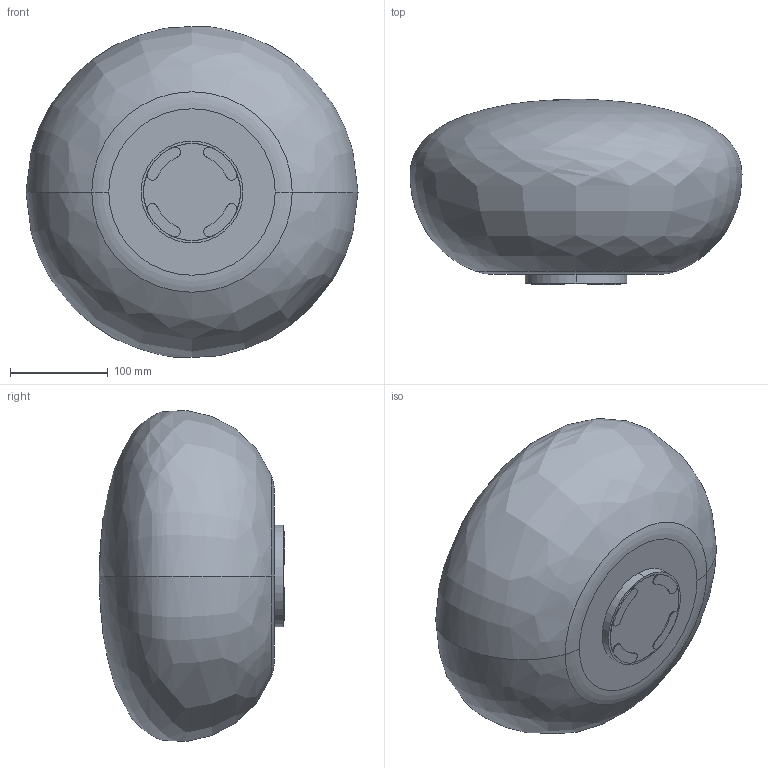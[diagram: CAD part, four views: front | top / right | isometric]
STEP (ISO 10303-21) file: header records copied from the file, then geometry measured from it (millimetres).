
FILE_DESCRIPTION (( 'STEP AP203' ), '1' );
FILE_NAME ('244_2_WC_ME_3D.STEP', '2022-08-24T06:47:28', ( '' ), ( '' ), 'SwSTEP 2.0', 'SolidWorks 2022', '' );
FILE_SCHEMA (( 'CONFIG_CONTROL_DESIGN' ));
Length unit declared in the file: millimetre
Products named in the file (1): 244_2_WC_ME_3D
Bounding box: 338.97 x 189.2 x 337.92 mm (x, y, z)
Volume: 1197383.5 mm3; surface area: 544672 mm2
Topology: 2 solids, 2 shells, 42 faces, 104 edges, 66 vertices
Faces by surface type: cylinder 24, plane 10, bspline 4, torus 4
Entity records: 1659 total; most frequent: CARTESIAN_POINT 561, DIRECTION 242, ORIENTED_EDGE 200, AXIS2_PLACEMENT_3D 107, EDGE_CURVE 100, CIRCLE 68, VERTEX_POINT 66, EDGE_LOOP 46
